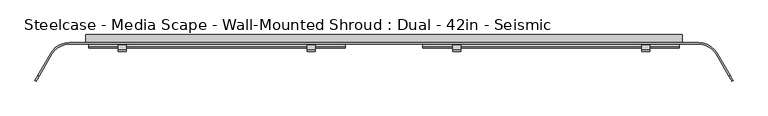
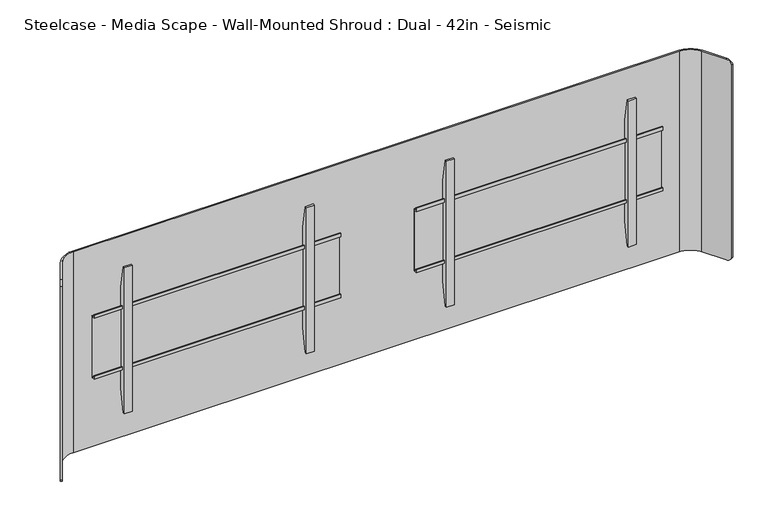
"""IFC4 building model written with IfcOpenShell, lengths in millimetres: furniture geometry, Steelcase - Media Scape - Wall-Mounted Shroud : Dual - 42in - Seismic."""

from ifc_helpers import new_model, si_unit, frame, origin, place, context, project, spatial, polyline, circle_curve, outline, extrude, source, transform, mapped, element, save
from ifc_brep_helpers import plane_surface, cylinder_surface, revolved_surface, advanced_brep


def steelcase_media_scape_wall_mounted_shroud_dual_42in_seismic_7c51b7b5(model_context):
    return source(origin(), model_context, "Body", "SolidModel", [
        extrude(outline(polyline([(-42.4942785, 1288.4504726), (-42.4942785, 1300.4645649), (-39.8272175, 1300.4645649), (-39.8272175, 1291.117461), (-29.9720009, 1291.117461), (-29.9720009, 1076.7922438), (-42.3164551, 1076.7922438), (-42.3164551, 1087.7142515), (-39.649394, 1087.7142515), (-39.649394, 1079.457052), (-32.6531824, 1079.457052), (-32.6531824, 1288.4504726), (-42.4942785, 1288.4504726)])), frame((123.571, 0.0, 0.0), z_axis=(1.0, 0.0, 0.0), x_axis=(0.0, 1.0, 0.0)), (0.0, 0.0, 1.0), 812.8),
        extrude(outline(polyline([(-32.6531824, 1359.3971148), (-32.6531824, 1007.5825607), (-46.5049349, 929.9546949), (-53.3399828, 929.9546949), (-53.3399828, 1437.9547192), (-46.5050076, 1437.9547192), (-32.6531824, 1359.3971148)])), frame((217.172426, 0.0, 0.0), z_axis=(1.0, 0.0, 0.0), x_axis=(0.0, 1.0, 0.0)), (0.0, 0.0, 1.0), 26.1592872),
        extrude(outline(polyline([(-32.6531824, 1359.3971148), (-32.6531824, 1007.5825607), (-46.5049349, 929.9546949), (-53.3399828, 929.9546949), (-53.3399828, 1437.9547192), (-46.5050076, 1437.9547192), (-32.6531824, 1359.3971148)])), frame((816.6102868, 0.0, 0.0), z_axis=(1.0, 0.0, 0.0), x_axis=(0.0, 1.0, 0.0)), (0.0, 0.0, 1.0), 26.1592872),
        extrude(outline(polyline([(-42.4942785, 1288.4504726), (-42.4942785, 1300.4645649), (-39.8272175, 1300.4645649), (-39.8272175, 1291.117461), (-29.9720009, 1291.117461), (-29.9720009, 1076.7922438), (-42.3164551, 1076.7922438), (-42.3164551, 1087.7142515), (-39.649394, 1087.7142515), (-39.649394, 1079.457052), (-32.6531824, 1079.457052), (-32.6531824, 1288.4504726), (-42.4942785, 1288.4504726)])), frame((-936.371, 0.0, 0.0), z_axis=(1.0, 0.0, 0.0), x_axis=(0.0, 1.0, 0.0)), (0.0, 0.0, 1.0), 812.8),
        extrude(outline(polyline([(-32.6531824, 1359.3971148), (-32.6531824, 1007.5825607), (-46.5049349, 929.9546949), (-53.3399828, 929.9546949), (-53.3399828, 1437.9547192), (-46.5050076, 1437.9547192), (-32.6531824, 1359.3971148)])), frame((-243.3317132, 0.0, 0.0), z_axis=(1.0, 0.0, 0.0), x_axis=(0.0, 1.0, 0.0)), (0.0, 0.0, 1.0), 26.1592872),
        extrude(outline(polyline([(-32.6531824, 1359.3971148), (-32.6531824, 1007.5825607), (-46.5049349, 929.9546949), (-53.3399828, 929.9546949), (-53.3399828, 1437.9547192), (-46.5050076, 1437.9547192), (-32.6531824, 1359.3971148)])), frame((-842.769574, 0.0, 0.0), z_axis=(1.0, 0.0, 0.0), x_axis=(0.0, 1.0, 0.0)), (0.0, 0.0, 1.0), 26.1592872),
        extrude(outline(polyline([(946.15, -25.4), (-946.15, -25.4), (-946.15, 0.0), (946.15, 0.0), (946.15, -25.4)])), frame((0.0, 0.0, 835.914), z_axis=(0.0, 0.0, 1.0), x_axis=(1.0, 0.0, 0.0)), (0.0, 0.0, 1.0), 76.2508167),
        advanced_brep(
        [(-1052.9586135, -61.722, 1534.414), (-997.966002, -29.9720009, 1534.414), (997.966, -29.9720009, 1534.414), (1052.9586135, -61.722, 1534.414), (1093.079586, -131.2135628, 1534.414), (1097.0390541, -128.9275628, 1534.414), (1056.9180817, -59.436, 1534.414), (997.966002, -25.4, 1534.414), (-997.966, -25.4, 1534.414), (-1056.9180817, -59.436, 1534.414), (-1097.0421659, -128.9329524, 1534.414), (-1093.0826977, -131.2189524, 1534.414), (-1056.9180817, -59.436, 835.914), (-997.966002, -25.4, 835.914), (997.966, -25.4, 835.914), (1056.9180817, -59.436, 835.914), (1097.0906629, -129.0169518, 835.914), (1093.1311948, -131.3029518, 835.914), (1052.9586135, -61.722, 835.914), (997.966002, -29.9720009, 835.914), (-997.966, -29.9720009, 835.914), (-1052.9586135, -61.722, 835.914), (-1093.1454014, -131.3275584, 835.914), (-1097.1048695, -129.0415584, 835.914), (-1106.6090632, -145.5033047, 849.5242766), (-1106.6090632, -145.5033047, 1520.4227735), (-1102.6495951, -147.7893047, 1520.4227735), (-1102.6495951, -147.7893047, 849.5242766), (1102.6270866, -147.7503189, 849.4756893), (1102.6270866, -147.7503189, 1520.5433849), (1106.5865547, -145.4643189, 1520.5433849), (1106.5865547, -145.4643189, 849.4756893)],
        [
            (0, 1, circle_curve(frame((-997.966002, -93.4719991, 1534.414), z_axis=(0.0, 0.0, -1.0), x_axis=(0.0, 1.0, 0.0)), 63.4999981)),
            (1, 2),
            (2, 3, circle_curve(frame((997.966002, -93.4719991, 1534.414), z_axis=(0.0, 0.0, -1.0), x_axis=(0.0, 1.0, 0.0)), 63.4999981)),
            (3, 4),
            (4, 5),
            (5, 6),
            (6, 7, circle_curve(frame((997.9660004, -93.472, 1534.414), z_axis=(0.0, 0.0, 1.0), x_axis=(0.0, 1.0, 0.0)), 68.072)),
            (7, 8),
            (8, 9, circle_curve(frame((-997.9660004, -93.472, 1534.414), z_axis=(0.0, 0.0, 1.0), x_axis=(0.0, 1.0, 0.0)), 68.072)),
            (9, 10),
            (10, 11),
            (11, 0),
            (12, 13, circle_curve(frame((-997.9660004, -93.472, 835.914), z_axis=(0.0, 0.0, -1.0), x_axis=(0.0, 1.0, 0.0)), 68.072)),
            (13, 14),
            (14, 15, circle_curve(frame((997.9660004, -93.472, 835.914), z_axis=(0.0, 0.0, -1.0), x_axis=(0.0, 1.0, 0.0)), 68.072)),
            (15, 16),
            (16, 17),
            (17, 18),
            (18, 19, circle_curve(frame((997.966002, -93.4719991, 835.914), z_axis=(0.0, 0.0, 1.0), x_axis=(0.0, 1.0, 0.0)), 63.4999981)),
            (19, 20),
            (20, 21, circle_curve(frame((-997.966002, -93.4719991, 835.914), z_axis=(0.0, 0.0, 1.0), x_axis=(0.0, 1.0, 0.0)), 63.4999981)),
            (21, 22),
            (22, 23),
            (23, 12),
            (0, 21),
            (20, 1),
            (8, 13),
            (12, 9),
            (23, 24, circle_curve(frame((-1097.1048695, -129.0415584, 855.9928872), z_axis=(-0.8660254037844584, 0.49999999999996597, 0.0), x_axis=(-0.49999999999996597, -0.8660254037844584, 0.0)), 20.0788872)),
            (24, 25),
            (25, 10, circle_curve(frame((-1097.0421659, -128.9329524, 1514.3351128), z_axis=(-0.8660254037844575, 0.4999999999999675, 0.0), x_axis=(-0.4999999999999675, -0.8660254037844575, 0.0)), 20.0788872)),
            (26, 25),
            (24, 27),
            (27, 26),
            (11, 26, circle_curve(frame((-1093.0826977, -131.2189524, 1514.3351128), z_axis=(0.8660254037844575, -0.4999999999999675, 0.0), x_axis=(-0.4999999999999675, -0.8660254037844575, 0.0)), 20.0788872)),
            (27, 22, circle_curve(frame((-1093.1454014, -131.3275584, 855.9928872), z_axis=(0.8660254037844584, -0.49999999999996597, 0.0), x_axis=(-0.49999999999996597, -0.8660254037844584, 0.0)), 20.0788872)),
            (7, 14),
            (19, 2),
            (3, 18),
            (17, 28, circle_curve(frame((1093.1311948, -131.3029518, 855.9928872), z_axis=(-0.8660254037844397, -0.49999999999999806, 0.0), x_axis=(0.49999999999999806, -0.8660254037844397, 0.0)), 20.0788872)),
            (28, 29),
            (29, 4, circle_curve(frame((1093.079586, -131.2135628, 1514.3351128), z_axis=(-0.8660254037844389, -0.49999999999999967, 0.0), x_axis=(0.49999999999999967, -0.8660254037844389, 0.0)), 20.0788872)),
            (30, 29),
            (28, 31),
            (31, 30),
            (15, 6),
            (5, 30, circle_curve(frame((1097.0390541, -128.9275628, 1514.3351128), z_axis=(0.8660254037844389, 0.49999999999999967, 0.0), x_axis=(0.49999999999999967, -0.8660254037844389, 0.0)), 20.0788872)),
            (31, 16, circle_curve(frame((1097.0906629, -129.0169518, 855.9928872), z_axis=(0.8660254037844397, 0.49999999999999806, 0.0), x_axis=(0.49999999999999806, -0.8660254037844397, 0.0)), 20.0788872)),
        ],
        [
            plane_surface(frame((-997.966002, -29.9720009, 1534.414), z_axis=(0.0, 0.0, 1.0), x_axis=(1.0, 0.0, 0.0))),
            plane_surface(frame((-997.966002, -29.9720009, 835.914), z_axis=(0.0, 0.0, -1.0), x_axis=(-1.0, 0.0, 0.0))),
            revolved_surface(polyline([(-997.966002, -29.972001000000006, 835.914), (-997.966002, -29.972001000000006, 1534.414)]), (-997.966002, -93.4719991, 835.914), (0.0, 0.0, -1.0)),
            cylinder_surface(frame((-997.9660004, -93.472, 835.914), z_axis=(0.0, 0.0, 1.0), x_axis=(0.0, 1.0, 0.0)), 68.072),
            plane_surface(frame((-1056.9180817, -59.436, 1534.414), z_axis=(-0.8660254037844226, 0.5000000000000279, 0.0), x_axis=(0.0, 0.0, -1.0))),
            plane_surface(frame((-1106.6090632, -145.5033047, 1534.414), z_axis=(-0.5000000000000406, -0.8660254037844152, 0.0), x_axis=(0.0, 0.0, -1.0))),
            plane_surface(frame((-1102.6495951, -147.7893047, 1534.414), z_axis=(0.8660254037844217, -0.5000000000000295, 0.0), x_axis=(0.0, 0.0, -1.0))),
            plane_surface(frame((997.966, -25.4, 1534.414), z_axis=(0.0, 1.0, 0.0), x_axis=(0.0, 0.0, -1.0))),
            plane_surface(frame((-997.966, -29.9720009, 1534.414), z_axis=(0.0, -1.0, 0.0), x_axis=(0.0, 0.0, -1.0))),
            plane_surface(frame((1052.9586135, -61.722, 1534.414), z_axis=(-0.8660254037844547, -0.4999999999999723, 0.0), x_axis=(0.0, 0.0, -1.0))),
            plane_surface(frame((1102.6270866, -147.7503189, 1534.414), z_axis=(0.4999999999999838, -0.866025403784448, 0.0), x_axis=(0.0, 0.0, -1.0))),
            plane_surface(frame((1106.5865547, -145.4643189, 1534.414), z_axis=(0.8660254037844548, 0.49999999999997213, 0.0), x_axis=(0.0, 0.0, -1.0))),
            cylinder_surface(frame((997.9660004, -93.472, 835.914), z_axis=(0.0, 0.0, 1.0), x_axis=(0.0, 1.0, 0.0)), 68.072),
            revolved_surface(polyline([(997.966002, -29.972001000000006, 835.914), (997.966002, -29.972001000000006, 1534.414)]), (997.966002, -93.4719991, 835.914), (0.0, 0.0, -1.0)),
            cylinder_surface(frame((-1093.0826977, -131.2189524, 1514.3351128), z_axis=(0.8660254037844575, -0.4999999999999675, 0.0), x_axis=(-0.4999999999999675, -0.8660254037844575, 0.0)), 20.0788872),
            cylinder_surface(frame((-1093.1454014, -131.3275584, 855.9928872), z_axis=(0.8660254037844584, -0.49999999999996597, 0.0), x_axis=(-0.49999999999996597, -0.8660254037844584, 0.0)), 20.0788872),
            cylinder_surface(frame((1108.1864297, -122.4916225, 1514.3351128), z_axis=(0.8660254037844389, 0.49999999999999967, 0.0), x_axis=(0.49999999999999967, -0.8660254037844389, 0.0)), 20.0788872),
            cylinder_surface(frame((1105.3789695, -124.2316958, 855.9928872), z_axis=(0.8660254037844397, 0.49999999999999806, 0.0), x_axis=(0.49999999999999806, -0.8660254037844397, 0.0)), 20.0788872),
        ],
        [
            (0, [[1, 2, 3, 4, 5, 6, 7, 8, 9, 10, 11, 12]]),
            (1, [[13, 14, 15, 16, 17, 18, 19, 20, 21, 22, 23, 24]]),
            (2, [[-1, 25, -21, 26]]),
            (3, [[-9, 27, -13, 28]]),
            (4, [[-28, -24, 29, 30, 31, -10]]),
            (5, [[32, -30, 33, 34]]),
            (6, [[-25, -12, 35, -34, 36, -22]]),
            (7, [[-8, 37, -14, -27]]),
            (8, [[-2, -26, -20, 38]]),
            (9, [[39, -18, 40, 41, 42, -4]]),
            (10, [[43, -41, 44, 45]]),
            (11, [[46, -6, 47, -45, 48, -16]]),
            (12, [[-7, -46, -15, -37]]),
            (13, [[-3, -38, -19, -39]]),
            (14, [[-11, -31, -32, -35]]),
            (15, [[-23, -36, -33, -29]]),
            (16, [[-5, -42, -43, -47]]),
            (17, [[-17, -48, -44, -40]]),
        ],
    ),
        extrude(outline(polyline([(912.1648167, 882.6499879), (912.1648167, 946.15), (1458.214, 946.15), (1458.214, -946.15), (912.1648167, -946.15), (912.1648167, -883.6433465), (1394.7139516, -883.6433465), (1394.7139516, 882.6499879), (912.1648167, 882.6499879)])), frame((0.0, -25.4, 0.0), z_axis=(0.0, 1.0, 0.0), x_axis=(0.0, 0.0, 1.0)), (0.0, 0.0, 1.0), 25.4),
    ])


if __name__ == "__main__":
    model = new_model("IFC4")
    model_context = context("Model", 3, world=origin())
    ifc_project = project(units=[si_unit("LENGTHUNIT", "METRE", prefix="MILLI")], contexts=[model_context])
    site = spatial("IfcSite", under=ifc_project)
    building = spatial("IfcBuilding", under=site)
    placement = place(None, origin())
    steelcase_media_scape_wall_mounted_shroud_dual_42in_seismic_shape = steelcase_media_scape_wall_mounted_shroud_dual_42in_seismic_7c51b7b5(model_context)
    element("IfcFurniture", 1, ObjectType="Steelcase - Media Scape - Wall-Mounted Shroud : Dual - 42in - Seismic", at=placement, inside=building, context=model_context, shape_type="MappedRepresentation", body=[
        mapped(steelcase_media_scape_wall_mounted_shroud_dual_42in_seismic_shape, transform((0.0, 0.0, 0.0), x_axis=(1.0, 0.0, 0.0), y_axis=(0.0, 1.0, 0.0), z_axis=(0.0, 0.0, 1.0))),
    ])
    save(model, "model.ifc")
